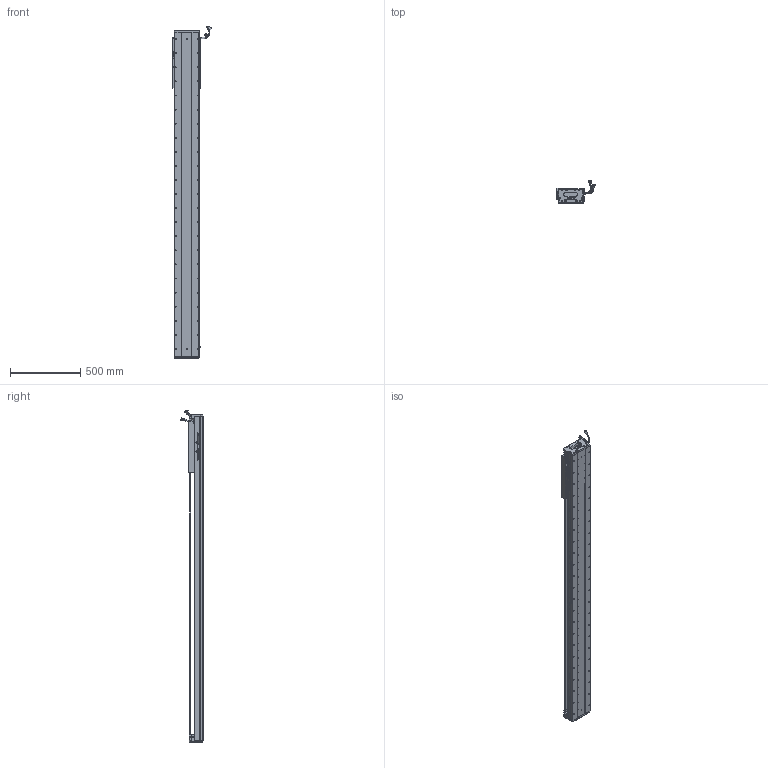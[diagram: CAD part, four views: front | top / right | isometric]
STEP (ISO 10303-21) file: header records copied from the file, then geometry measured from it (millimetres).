
FILE_DESCRIPTION (( 'STEP AP203' ), '1' );
FILE_NAME ('Z5-RY170D-1-L500-B-K.SLDASM_1850.step', '2021-05-18T00:41:55', ( '盈信电脑' ), ( '东莞市道滘镇水果街19号' ), 'SwSTEP 2.0', 'SolidWorks 2016', '' );
FILE_SCHEMA (( 'CONFIG_CONTROL_DESIGN' ));
Length unit declared in the file: millimetre
Products named in the file (36): HARNESS-Part-2; 榋妏寠巭燃_暯_M2_2; SEAL-Part-1; 140雄赽晤鎢ん堤盄; SCREW-M1.6-1; PSLH080_PSLF2; Z5-RY170臏賑輸(21遴); Z5-RY170D-1-L500-B-K.SLDASM_1850; Z-170詩湍傷裔啣; PBU_SHEET; Z-RY170詩湍狟揤裔; SCREW-M1.7-1; SCALE-Part-1; Z5-RY170-L500耀郪菁釱_1850; SCREW-M1.6; SCREW-M1.6-2; SEAL; LABEL; 170-Z-臏賑輸盄裔(21遴); RY170直线电机感应器672光电感应片; LABEL-Part-1; COVER-Part-1; SCREW-M1.6-3; 覜茼ん672; HARNESS-Part-1; HARNESS; HOLDER0; 140蚥薯蝶輸; COVER; SHIELDPLATE; 080黍杅芛假蚾釱21遴; SCALE-Part-2; Z-RY170詩湍奻揤裔; Z5-RY170-L500詩湍145mm遵_1850; SCREW-M1.7; SCALE
Assembly tree (41 placements, depth 4):
  Z5-RY170D-1-L500-B-K.SLDASM_1850
    Z5-RY170-L500耀郪菁釱_1850
    RY170直线电机感应器672光电感应片
    Z5-RY170臏賑輸(21遴)
    覜茼ん672  x3
    PSLH080_PSLF2
      SCALE
        SCALE-Part-1
        SCALE-Part-2
      HARNESS
        HARNESS-Part-1
        HARNESS-Part-2
      LABEL
        LABEL-Part-1
      COVER
        COVER-Part-1
      SEAL
        SEAL-Part-1
      榋妏寠巭燃_暯_M2_2
      SHIELDPLATE
      SCREW-M1.7
      SCREW-M1.7-1
      PBU_SHEET
      SCREW-M1.6
      SCREW-M1.6-1
      SCREW-M1.6-2
      SCREW-M1.6-3
      HOLDER0
    080黍杅芛假蚾釱21遴
    Z5-RY170-L500詩湍145mm遵_1850
    Z-170詩湍傷裔啣  x2
    Z-RY170詩湍奻揤裔  x2
    Z-RY170詩湍狟揤裔  x2
    140蚥薯蝶輸  x2
    170-Z-臏賑輸盄裔(21遴)
    140雄赽晤鎢ん堤盄
Bounding box: 275.34 x 158.11 x 2358.72 mm (x, y, z)
Volume: 12488439.9 mm3; surface area: 3004040.3 mm2
Topology: 36 solids, 36 shells, 3990 faces, 10999 edges, 6881 vertices
Faces by surface type: cylinder 2002, plane 1310, cone 556, torus 69, bspline 53
Entity records: 124615 total; most frequent: CARTESIAN_POINT 34220, ORIENTED_EDGE 18506, DIRECTION 17457, EDGE_CURVE 9253, AXIS2_PLACEMENT_3D 6456, VERTEX_POINT 5999, LINE 4545, VECTOR 4545
